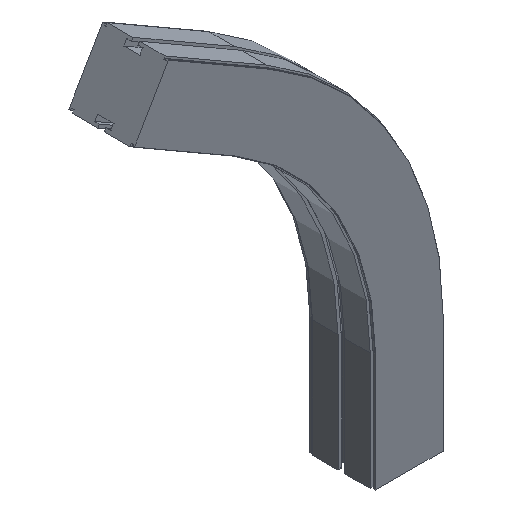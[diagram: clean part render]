
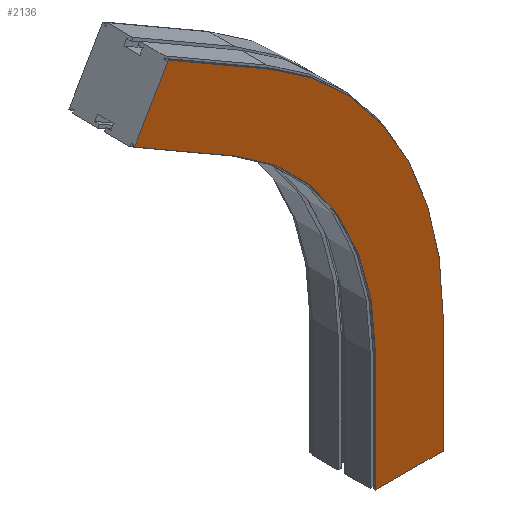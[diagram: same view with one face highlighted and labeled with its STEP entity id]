
A CAD part, isometric view. The second image highlights one B-rep face of the part: STEP entity #2136.
In plain terms, the highlighted planar face has unit normal (0, -1, 0).
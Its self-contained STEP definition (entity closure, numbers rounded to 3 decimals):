
#70 = LINE ( 'NONE', #1704, #73 ) ;
#73 = VECTOR ( 'NONE', #1705, 1000. ) ;
#185 = CIRCLE ( 'NONE', #1431, 356.85 ) ;
#190 = CIRCLE ( 'NONE', #1433, 443.15 ) ;
#442 = PLANE ( 'NONE',  #1335 ) ;
#443 = CARTESIAN_POINT ( 'NONE',  ( -43.15, -42., 150. ) ) ;
#448 = DIRECTION ( 'NONE',  ( 0., -1., 0. ) ) ;
#449 = DIRECTION ( 'NONE',  ( 1., 0., 0. ) ) ;
#747 = CARTESIAN_POINT ( 'NONE',  ( 43.15, -42., 0. ) ) ;
#748 = CARTESIAN_POINT ( 'NONE',  ( -43.15, -42., 0. ) ) ;
#794 = CARTESIAN_POINT ( 'NONE',  ( 43.15, -42., 150. ) ) ;
#796 = CARTESIAN_POINT ( 'NONE',  ( -43.15, -42., 150. ) ) ;
#842 = CARTESIAN_POINT ( 'NONE',  ( -308.329, -42., 608.779 ) ) ;
#846 = CARTESIAN_POINT ( 'NONE',  ( -351.479, -42., 534.041 ) ) ;
#1028 = LINE ( 'NONE', #1642, #1982 ) ;
#1056 = VECTOR ( 'NONE', #2925, 1000. ) ;
#1058 = VECTOR ( 'NONE', #2927, 1000. ) ;
#1059 = LINE ( 'NONE', #2926, #1056 ) ;
#1060 = VECTOR ( 'NONE', #2929, 1000. ) ;
#1062 = VECTOR ( 'NONE', #2930, 1000. ) ;
#1063 = LINE ( 'NONE', #2935, #1058 ) ;
#1065 = LINE ( 'NONE', #2932, #1062 ) ;
#1067 = LINE ( 'NONE', #2069, #1060 ) ;
#1112 = ORIENTED_EDGE ( 'NONE', *, *, #1266, .T. ) ;
#1246 = ORIENTED_EDGE ( 'NONE', *, *, #1269, .T. ) ;
#1247 = ORIENTED_EDGE ( 'NONE', *, *, #3076, .F. ) ;
#1248 = ORIENTED_EDGE ( 'NONE', *, *, #2974, .F. ) ;
#1266 = EDGE_CURVE ( 'NONE', #2841, #2845, #1065, .T. ) ;
#1267 = EDGE_CURVE ( 'NONE', #2793, #2746, #1067, .T. ) ;
#1268 = EDGE_CURVE ( 'NONE', #2746, #2747, #1063, .T. ) ;
#1269 = EDGE_CURVE ( 'NONE', #2795, #2747, #1059, .T. ) ;
#1335 = AXIS2_PLACEMENT_3D ( 'NONE', #443, #448, #449 ) ;
#1431 = AXIS2_PLACEMENT_3D ( 'NONE', #1881, #1882, #1883 ) ;
#1433 = AXIS2_PLACEMENT_3D ( 'NONE', #1891, #1892, #1893 ) ;
#1504 = FACE_OUTER_BOUND ( 'NONE', #2717, .T. ) ;
#1517 = CARTESIAN_POINT ( 'NONE',  ( -178.425, -42., 533.779 ) ) ;
#1520 = CARTESIAN_POINT ( 'NONE',  ( -221.575, -42., 459.041 ) ) ;
#1642 = CARTESIAN_POINT ( 'NONE',  ( -221.575, -42., 459.041 ) ) ;
#1647 = DIRECTION ( 'NONE',  ( -0.866, 0., 0.5 ) ) ;
#1704 = CARTESIAN_POINT ( 'NONE',  ( -178.425, -42., 533.779 ) ) ;
#1705 = DIRECTION ( 'NONE',  ( -0.866, 0., 0.5 ) ) ;
#1881 = CARTESIAN_POINT ( 'NONE',  ( -400., -42., 150. ) ) ;
#1882 = DIRECTION ( 'NONE',  ( 0., -1., 0. ) ) ;
#1883 = DIRECTION ( 'NONE',  ( 0., 0., -1. ) ) ;
#1891 = CARTESIAN_POINT ( 'NONE',  ( -400., -42., 150. ) ) ;
#1892 = DIRECTION ( 'NONE',  ( 0., -1., 0. ) ) ;
#1893 = DIRECTION ( 'NONE',  ( 0., 0., -1. ) ) ;
#1982 = VECTOR ( 'NONE', #1647, 1000. ) ;
#2069 = CARTESIAN_POINT ( 'NONE',  ( 43.15, -42., 150. ) ) ;
#2136 = ADVANCED_FACE ( 'NONE', ( #1504 ), #442, .T. ) ;
#2246 = ORIENTED_EDGE ( 'NONE', *, *, #1267, .F. ) ;
#2247 = ORIENTED_EDGE ( 'NONE', *, *, #3079, .T. ) ;
#2248 = ORIENTED_EDGE ( 'NONE', *, *, #3003, .T. ) ;
#2249 = ORIENTED_EDGE ( 'NONE', *, *, #1268, .F. ) ;
#2717 = EDGE_LOOP ( 'NONE', ( #2249, #2246, #2247, #2248, #1112, #1248, #1247, #1246 ) ) ;
#2746 = VERTEX_POINT ( 'NONE', #747 ) ;
#2747 = VERTEX_POINT ( 'NONE', #748 ) ;
#2793 = VERTEX_POINT ( 'NONE', #794 ) ;
#2795 = VERTEX_POINT ( 'NONE', #796 ) ;
#2841 = VERTEX_POINT ( 'NONE', #842 ) ;
#2845 = VERTEX_POINT ( 'NONE', #846 ) ;
#2848 = VERTEX_POINT ( 'NONE', #1517 ) ;
#2851 = VERTEX_POINT ( 'NONE', #1520 ) ;
#2925 = DIRECTION ( 'NONE',  ( 0., 0., -1. ) ) ;
#2926 = CARTESIAN_POINT ( 'NONE',  ( -43.15, -42., 150. ) ) ;
#2927 = DIRECTION ( 'NONE',  ( -1., 0., 0. ) ) ;
#2929 = DIRECTION ( 'NONE',  ( 0., 0., -1. ) ) ;
#2930 = DIRECTION ( 'NONE',  ( -0.5, 0., -0.866 ) ) ;
#2932 = CARTESIAN_POINT ( 'NONE',  ( -351.479, -42., 534.041 ) ) ;
#2935 = CARTESIAN_POINT ( 'NONE',  ( -43.15, -42., 0. ) ) ;
#2974 = EDGE_CURVE ( 'NONE', #2851, #2845, #1028, .T. ) ;
#3003 = EDGE_CURVE ( 'Edge42', #2848, #2841, #70, .T. ) ;
#3076 = EDGE_CURVE ( 'NONE', #2795, #2851, #185, .T. ) ;
#3079 = EDGE_CURVE ( 'Edge18', #2793, #2848, #190, .T. ) ;
